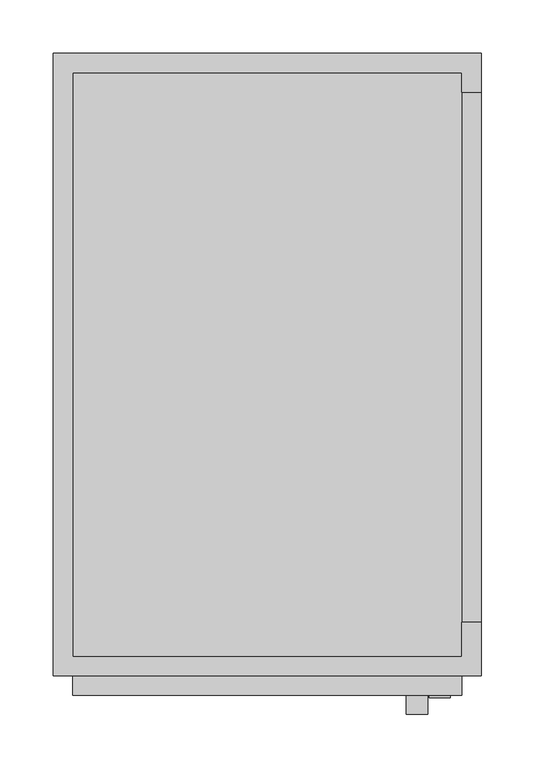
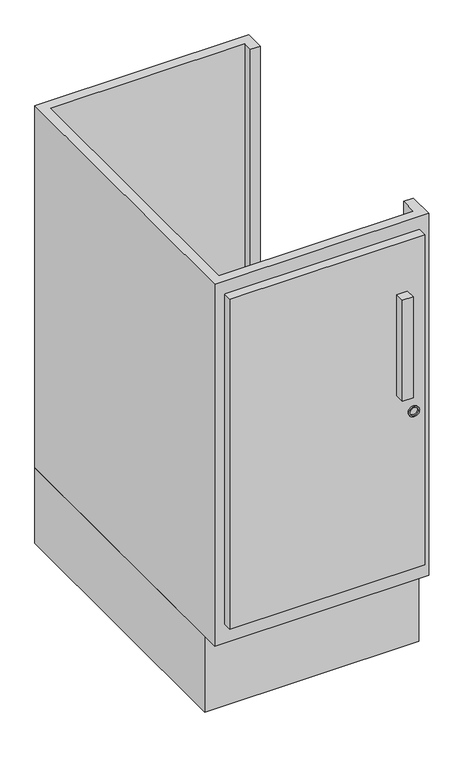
"""IFC4 building model written with IfcOpenShell, lengths in millimetres: proxy geometry, BIMHealth-400x600mm_Base_Unit_Lockable-LOD2A-v1 : BIMHealth-400x600mm_Base_Unit_Lockable-LOD2A-v1."""

import ifcopenshell
import ifcopenshell.guid

model = None  # the IFC model being written
_history = None  # IfcOwnerHistory: only IFC2X3 demands one
_inside = {}  # id of a spatial element -> (the spatial element, [elements in it])
_under = {}  # id of a project, library or spatial element -> (it, [spatial elements below it])
_declared = {}  # id of a project -> (the project, [libraries it declares])
_typed = {}  # id of a type object -> (the type object, [elements of that type])
_made_of = {}  # id of a material, layer set ... -> (it, [elements and type objects made of it])


def new_model(schema):
    """Start an empty IFC model of exactly this schema.

    Asked for "IFC4X3", IfcOpenShell would pick the latest addendum, in which some entities
    have other attributes; the version numbers below select the first issue.
    IFC2X3 requires an IfcOwnerHistory on every rooted entity: one is made here for all.
    """
    global model, _history
    if schema == "IFC4X3":
        model = ifcopenshell.file(schema_version=(4, 3, 0, 0))
    else:
        model = ifcopenshell.file(schema=schema)
    _inside.clear()
    _under.clear()
    _declared.clear()
    _typed.clear()
    _made_of.clear()
    _history = None
    if model.schema == "IFC2X3":
        org = make("IfcOrganization", Name="unknown")
        user = make(
            "IfcPersonAndOrganization",
            ThePerson=make("IfcPerson", FamilyName="unknown"),
            TheOrganization=org,
        )
        app = make(
            "IfcApplication",
            ApplicationDeveloper=org,
            Version="unknown",
            ApplicationFullName="unknown",
            ApplicationIdentifier="unknown",
        )
        _history = make(
            "IfcOwnerHistory",
            OwningUser=user,
            OwningApplication=app,
            ChangeAction="ADDED",
            CreationDate=0,
        )
    return model


def make(cls, **values):
    """One entity of the class cls with the attributes given. An attribute that is None is left unset."""
    return model.create_entity(
        cls, **{name: value for name, value in values.items() if value is not None}
    )


def rooted(cls, **values):
    """An entity with a GlobalId (a new one), such as an element, a storey or a relation."""
    return make(cls, GlobalId=ifcopenshell.guid.new(), OwnerHistory=_history, **values)


def si_unit(unit_type, name, prefix=None):
    """IfcSIUnit, for example si_unit("LENGTHUNIT", "METRE", prefix="MILLI")."""
    return make("IfcSIUnit", UnitType=unit_type, Prefix=prefix, Name=name)


def assignment(units):
    """IfcUnitAssignment: the units of a project."""
    return None if units is None else make("IfcUnitAssignment", Units=units)


def point(xyz):
    """IfcCartesianPoint."""
    return None if xyz is None else make("IfcCartesianPoint", Coordinates=xyz)


def direction(xyz):
    """IfcDirection."""
    return None if xyz is None else make("IfcDirection", DirectionRatios=xyz)


def frame(location, z_axis=None, x_axis=None):
    """IfcAxis2Placement3D, a coordinate frame: its origin and axes. An axis left out is left unset."""
    return make(
        "IfcAxis2Placement3D",
        Location=point(location),
        Axis=direction(z_axis),
        RefDirection=direction(x_axis),
    )


def frame_2d(location, x_axis=None):
    """IfcAxis2Placement2D, a coordinate frame in the plane: its origin and x axis."""
    return make(
        "IfcAxis2Placement2D", Location=point(location), RefDirection=direction(x_axis)
    )


def origin():
    """The frame at (0, 0, 0) with its axes left unset."""
    return frame((0.0, 0.0, 0.0))


def origin_with_axes():
    """The frame at (0, 0, 0) with the z axis (0, 0, 1) and the x axis (1, 0, 0) written out."""
    return frame((0.0, 0.0, 0.0), z_axis=(0.0, 0.0, 1.0), x_axis=(1.0, 0.0, 0.0))


def place(relative_to, where):
    """IfcLocalPlacement: puts the frame where relative to a parent placement (None: the world)."""
    return make(
        "IfcLocalPlacement", PlacementRelTo=relative_to, RelativePlacement=where
    )


def context(
    kind, dimensions, precision=None, world=None, true_north=None, identifier=None
):
    """IfcGeometricRepresentationContext, for example the 3D "Model" context."""
    return make(
        "IfcGeometricRepresentationContext",
        ContextIdentifier=identifier,
        ContextType=kind,
        CoordinateSpaceDimension=dimensions,
        Precision=precision,
        WorldCoordinateSystem=world,
        TrueNorth=true_north,
    )


def project(units=None, contexts=None):
    """IfcProject with its units and contexts."""
    return rooted(
        "IfcProject",
        Name="project",
        RepresentationContexts=contexts,
        UnitsInContext=assignment(units),
    )


def spatial(cls, under=None, at=None, **own):
    """A site, building, storey or space (cls), placed at a placement, below another one or the project."""
    s = rooted(cls, ObjectPlacement=at, **own)
    if under is not None:
        _under.setdefault(under.id(), (under, []))[1].append(s)
    return s


def polyline(points):
    """IfcPolyline through the points."""
    return make("IfcPolyline", Points=[point(p) for p in points])


def circle_curve(where, radius):
    """IfcCircle in the frame where."""
    return make("IfcCircle", Position=where, Radius=radius)


def trimmed(basis, trim1, trim2, sense, master):
    """IfcTrimmedCurve: the piece of a basis curve between two trims."""
    return make(
        "IfcTrimmedCurve",
        BasisCurve=basis,
        Trim1=trim1,
        Trim2=trim2,
        SenseAgreement=sense,
        MasterRepresentation=master,
    )


def segment(curve, same_sense, transition):
    """IfcCompositeCurveSegment."""
    return make(
        "IfcCompositeCurveSegment",
        Transition=transition,
        SameSense=same_sense,
        ParentCurve=curve,
    )


def composite_curve(segments, self_intersect=None):
    """IfcCompositeCurve: segments joined end to end."""
    return make("IfcCompositeCurve", Segments=segments, SelfIntersect=self_intersect)


def outline(outer, holes=None, kind="AREA"):
    """IfcArbitraryClosedProfileDef: a profile drawn as a closed curve; with holes, ...WithVoids."""
    if holes is None:
        return make("IfcArbitraryClosedProfileDef", ProfileType=kind, OuterCurve=outer)
    return make(
        "IfcArbitraryProfileDefWithVoids",
        ProfileType=kind,
        OuterCurve=outer,
        InnerCurves=holes,
    )


def extrude(swept, where, along, depth):
    """IfcExtrudedAreaSolid: the profile swept, set in the frame where, extruded along a direction by depth."""
    return make(
        "IfcExtrudedAreaSolid",
        SweptArea=swept,
        Position=where,
        ExtrudedDirection=direction(along),
        Depth=depth,
    )


def faces_of(points, faces, orient=None, outer=None):
    """IfcFace entities. A face is a list of loops; a loop is a list of indices into points, from 0.

    orient and outer hold one flag for each loop. By default every Orientation is true, the
    first loop of a face is its IfcFaceOuterBound and the others are IfcFaceBound.
    """
    made = []
    for i, loops in enumerate(faces):
        bounds = []
        for j, loop in enumerate(loops):
            is_outer = j == 0 if outer is None else outer[i][j]
            bounds.append(
                make(
                    "IfcFaceOuterBound" if is_outer else "IfcFaceBound",
                    Bound=make("IfcPolyLoop", Polygon=[points[k] for k in loop]),
                    Orientation=True if orient is None else orient[i][j],
                )
            )
        made.append(make("IfcFace", Bounds=bounds))
    return made


def faceted_brep(points, faces, orient=None, outer=None, voids=None):
    """IfcFacetedBrep: a solid bounded by flat faces; with voids (closed shells), ...WithVoids."""
    shared = [point(p) for p in points]
    hull = make("IfcClosedShell", CfsFaces=faces_of(shared, faces, orient, outer))
    if voids is None:
        return make("IfcFacetedBrep", Outer=hull)
    return make(
        "IfcFacetedBrepWithVoids",
        Outer=hull,
        Voids=[
            make(cls, CfsFaces=faces_of(shared, fs, o, b)) for cls, fs, o, b in voids
        ],
    )


def shape(context_of_items, identifier, shape_type, items):
    """IfcShapeRepresentation: the items that make up one representation, for example the "Body"."""
    return make(
        "IfcShapeRepresentation",
        ContextOfItems=context_of_items,
        RepresentationIdentifier=identifier,
        RepresentationType=shape_type,
        Items=items,
    )


def source(mapping_origin, context_of_items, identifier, shape_type, items):
    """IfcRepresentationMap: a shape defined once, which mapped items show again and again."""
    return make(
        "IfcRepresentationMap",
        MappingOrigin=mapping_origin,
        MappedRepresentation=shape(context_of_items, identifier, shape_type, items),
    )


def transform(
    local_origin,
    x_axis=None,
    y_axis=None,
    z_axis=None,
    scale=None,
    scale2=None,
    scale3=None,
    uniform=True,
):
    """IfcCartesianTransformationOperator3D, or its non-uniform kind. x_axis, y_axis, z_axis: its Axis1, 2, 3."""
    if uniform:
        return make(
            "IfcCartesianTransformationOperator3D",
            Axis1=direction(x_axis),
            Axis2=direction(y_axis),
            LocalOrigin=point(local_origin),
            Scale=scale,
            Axis3=direction(z_axis),
        )
    return make(
        "IfcCartesianTransformationOperator3DnonUniform",
        Axis1=direction(x_axis),
        Axis2=direction(y_axis),
        LocalOrigin=point(local_origin),
        Scale=scale,
        Axis3=direction(z_axis),
        Scale2=scale2,
        Scale3=scale3,
    )


def mapped(mapping_source, mapping_target):
    """IfcMappedItem: shows the shape of a source again, moved by a transform."""
    return make(
        "IfcMappedItem", MappingSource=mapping_source, MappingTarget=mapping_target
    )


def made_of(thing, what):
    """Note that an element or type object is made of a material, layer set ...; save() writes the relation."""
    if what is not None:
        _made_of.setdefault(what.id(), (what, []))[1].append(thing)
    return thing


def element(
    cls,
    number,
    at=None,
    inside=None,
    cuts=None,
    type_object=None,
    material=None,
    context=None,
    identifier="Body",
    shape_type=None,
    held_by="IfcProductDefinitionShape",
    body=None,
    shapes=None,
    **own,
):
    """One element of the class cls, such as IfcWall. Its Tag is "e" and its number.

    at: its placement. inside: the storey or other place that contains it. cuts: it is an
    opening in that element (IfcRelVoidsElement). A single representation is given by context,
    identifier, shape_type and body (its items); several are given by shapes. held_by: the class
    of the entity that holds the representations. save() writes the other relations.
    """
    e = rooted(cls, Tag="e%d" % number, ObjectPlacement=at, **own)
    if body is not None:
        shapes = [shape(context, identifier, shape_type, body)]
    if shapes is not None:
        e.Representation = make(held_by, Representations=shapes)
    if inside is not None:
        _inside.setdefault(inside.id(), (inside, []))[1].append(e)
    if cuts is not None:
        rooted(
            "IfcRelVoidsElement", RelatingBuildingElement=cuts, RelatedOpeningElement=e
        )
    if type_object is not None:
        _typed.setdefault(type_object.id(), (type_object, []))[1].append(e)
    return made_of(e, material)


def aggregate(whole, parts):
    """IfcRelAggregates: a whole, such as a stair, and the parts it consists of."""
    return rooted("IfcRelAggregates", RelatingObject=whole, RelatedObjects=parts)


def save(model, path):
    """Write the relations noted so far, then the file.

    IfcRelAggregates (storeys below a building ...), IfcRelContainedInSpatialStructure (elements
    in a storey), IfcRelDefinesByType, IfcRelAssociatesMaterial and IfcRelDeclares: one each for
    every whole, place, type object, material and project.
    """
    for whole, parts in _under.values():
        aggregate(whole, parts)
    for where, things in _inside.values():
        rooted(
            "IfcRelContainedInSpatialStructure",
            RelatedElements=things,
            RelatingStructure=where,
        )
    for kind, things in _typed.values():
        rooted("IfcRelDefinesByType", RelatedObjects=things, RelatingType=kind)
    for what, things in _made_of.values():
        rooted("IfcRelAssociatesMaterial", RelatedObjects=things, RelatingMaterial=what)
    for by, libraries in _declared.values():
        rooted("IfcRelDeclares", RelatingContext=by, RelatedDefinitions=libraries)
    model.write(path)


def generic_models_42823711(model_context):
    return source(origin(), model_context, "Body", "SolidModel", [
        extrude(outline(composite_curve([segment(trimmed(circle_curve(frame_2d((499.5110604, 361.1811485)), 10.0), [point((499.5110604, 351.1811485))], [point((499.5110604, 371.1811485))], False, "CARTESIAN"), True, "CONTINUOUS"), segment(trimmed(circle_curve(frame_2d((499.5110604, 361.1811485)), 10.0), [point((499.5110604, 371.1811485))], [point((499.5110604, 351.1811485))], False, "CARTESIAN"), True, "CONTINUOUS")], self_intersect=False), holes=[composite_curve([segment(trimmed(circle_curve(frame_2d((499.5110604, 361.1811485)), 7.5), [point((499.5110604, 353.6811485))], [point((499.5110604, 368.6811485))], True, "CARTESIAN"), True, "CONTINUOUS"), segment(trimmed(circle_curve(frame_2d((499.5110604, 361.1811485)), 7.5), [point((499.5110604, 368.6811485))], [point((499.5110604, 353.6811485))], True, "CARTESIAN"), True, "CONTINUOUS")], self_intersect=False)]), frame((0.0, -602.5, 0.0), z_axis=(0.0, 1.0, 0.0), x_axis=(0.0, 0.0, 1.0)), (0.0, 0.0, 1.0), 2.5),
        faceted_brep([(400.0, -582.0, 150.0), (0.0, -582.0, 150.0), (0.0, 0.0, 150.0), (400.0, 0.0, 150.0), (400.0, -36.3343083, 150.0), (382.0, -36.3343083, 150.0), (382.0, -532.0, 150.0), (400.0, -532.0, 150.0), (18.0, -18.0, 865.0), (18.0, -564.0, 865.0), (18.0, -564.0, 168.0), (18.0, -18.0, 168.0), (382.0, -18.0, 865.0), (382.0, -18.0, 168.0), (382.0, -564.0, 865.0), (382.0, -564.0, 168.0), (382.0, -532.0, 168.0), (382.0, -36.3343083, 168.0), (400.0, -582.0, 865.0), (400.0, -532.0, 865.0), (382.0, -532.0, 865.0), (382.0, -36.3343083, 865.0), (400.0, -36.3343083, 865.0), (400.0, 0.0, 865.0), (0.0, 0.0, 865.0), (0.0, -582.0, 865.0)], [[[0, 1, 2, 3, 4, 5, 6, 7]], [[8, 9, 10, 11]], [[12, 8, 11, 13]], [[9, 14, 15, 10]], [[16, 17, 13, 11, 10, 15]], [[18, 19, 20, 14, 9, 8, 12, 21, 22, 23, 24, 25]], [[24, 23, 3, 2]], [[25, 24, 2, 1]], [[18, 25, 1, 0]], [[6, 5, 17, 16]], [[19, 18, 0, 7]], [[20, 19, 7, 6, 16]], [[14, 20, 16, 15]], [[21, 12, 13, 17]], [[22, 21, 17, 5, 4]], [[23, 22, 4, 3]]]),
        extrude(outline(polyline([(350.0, -618.0), (330.0, -618.0), (330.0, -600.0), (350.0, -600.0), (350.0, -618.0)])), frame((0.0, 0.0, 540.0), z_axis=(0.0, 0.0, 1.0), x_axis=(1.0, 0.0, 0.0)), (0.0, 0.0, 1.0), 200.0),
        extrude(outline(polyline([(382.0, -582.0), (382.0, -600.0), (18.0, -600.0), (18.0, -582.0), (382.0, -582.0)])), frame((0.0, 0.0, 188.0), z_axis=(0.0, 0.0, 1.0), x_axis=(1.0, 0.0, 0.0)), (0.0, 0.0, 1.0), 652.0),
        extrude(outline(polyline([(400.0, 0.0), (400.0, -550.0), (0.0, -550.0), (0.0, 0.0), (400.0, 0.0)]), holes=[polyline([(382.0, -18.0), (18.0, -18.0), (18.0, -532.0), (382.0, -532.0), (382.0, -18.0)])]), origin_with_axes(), (0.0, 0.0, 1.0), 150.0),
    ])


if __name__ == "__main__":
    model = new_model("IFC4")
    model_context = context("Model", 3, world=origin())
    ifc_project = project(units=[si_unit("LENGTHUNIT", "METRE", prefix="MILLI")], contexts=[model_context])
    site = spatial("IfcSite", under=ifc_project)
    building = spatial("IfcBuilding", under=site)
    placement = place(None, origin())
    generic_models_shape = generic_models_42823711(model_context)
    element("IfcBuildingElementProxy", 1, Name="BIMHealth-400x600mm_Base_Unit_Lockable-LOD2A-v1 : BIMHealth-400x600mm_Base_Unit_Lockable-LOD2A-v1", ObjectType="BIMHealth-400x600mm_Base_Unit_Lockable-LOD2A-v1 : BIMHealth-400x600mm_Base_Unit_Lockable-LOD2A-v1", at=placement, inside=building, context=model_context, shape_type="MappedRepresentation", body=[
        mapped(generic_models_shape, transform((0.0, 0.0, 0.0), x_axis=(1.0, 0.0, 0.0), y_axis=(0.0, 1.0, 0.0), z_axis=(0.0, 0.0, 1.0))),
    ])
    save(model, "model.ifc")
